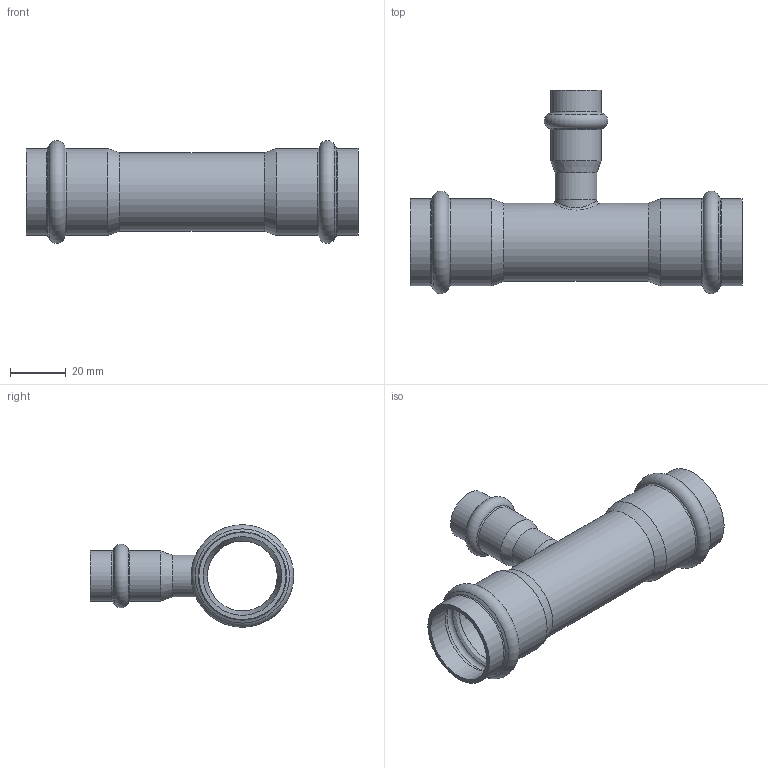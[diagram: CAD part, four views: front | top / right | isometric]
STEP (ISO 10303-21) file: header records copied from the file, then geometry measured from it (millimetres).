
FILE_DESCRIPTION((''),'2;1');
FILE_NAME('G:\Technics\CAD\Bauteile\028\69130281528(1).stp','2008-02-26T08:24:52',('herberg'),(''),'Autodesk Inventor 2008','Autodesk Inventor 2008','');
FILE_SCHEMA(('AUTOMOTIVE_DESIGN { 1 0 10303 214 1 1 1 1 }'));
Length unit declared in the file: millimetre
Products named in the file (3): 69130281528(1); LM_69130281528(1); 6924315HM
Assembly tree (2 placements, depth 2):
  69130281528(1)
    LM_69130281528(1)
    6924315HM
Bounding box: 119 x 72.89 x 36.79 mm (x, y, z)
Volume: 20010.5 mm3; surface area: 27159.7 mm2
Topology: 2 solids, 2 shells, 55 faces, 115 edges, 64 vertices
Faces by surface type: cylinder 18, bspline 13, cone 12, torus 7, plane 5
Full cylindrical faces by diameter (mm): 12 x2, 15 x2, 15.15 x2, 18.15 x2, 25 x1, 28 x1, 28.2 x4, 31.2 x4
Entity records: 2692 total; most frequent: CARTESIAN_POINT 1711, DIRECTION 200, ORIENTED_EDGE 116, EDGE_LOOP 110, AXIS2_PLACEMENT_3D 100, EDGE_CURVE 58, VERTEX_POINT 56, FACE_OUTER_BOUND 55
